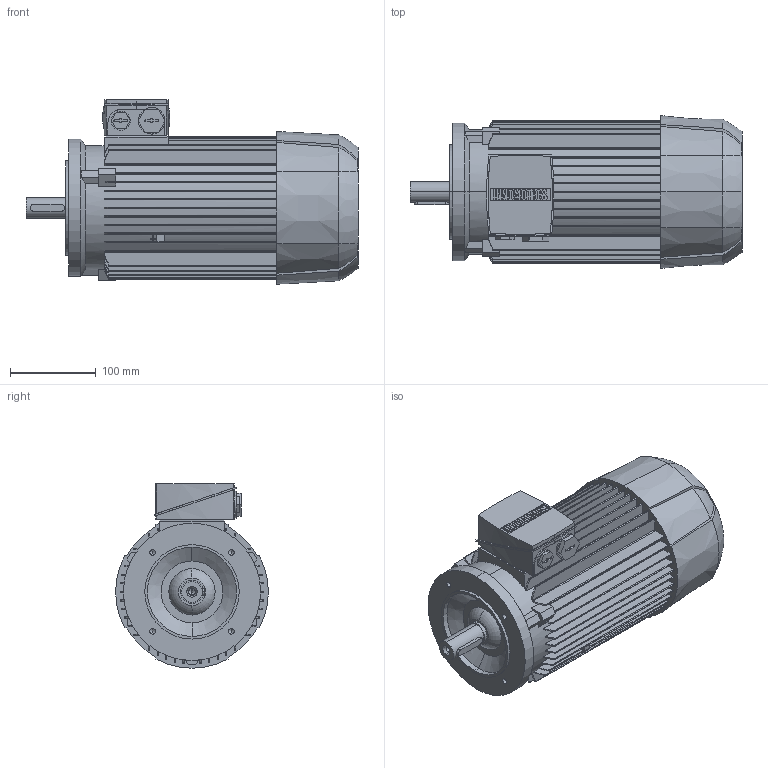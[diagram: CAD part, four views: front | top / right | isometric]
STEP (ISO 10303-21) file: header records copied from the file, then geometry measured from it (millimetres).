
FILE_DESCRIPTION(('STEP AP214'),'1');
FILE_NAME('cctmp_039213D1-B88B-4E0B-A213-E681F688B83F_2026_05_04_09_38_10_0939_2612..stp','2026-05-04T07:38:11',('KiM GmbH'),('CADClick - www.CADClick.com'),'Spatial InterOp 3D',' ','unknown authorization');
FILE_SCHEMA(('AUTOMOTIVE_DESIGN'));
Length unit declared in the file: millimetre
Products named in the file (1): 2026_05_04_09_38_10_0939
Bounding box: 387 x 178 x 215 mm (x, y, z)
Volume: 6671070.2 mm3; surface area: 455396.1 mm2
Topology: 1 solids, 1 shells, 667 faces, 1867 edges, 1230 vertices
Faces by surface type: plane 414, cylinder 171, torus 52, cone 30
Entity records: 27900 total; most frequent: CARTESIAN_POINT 5162, ORIENTED_EDGE 3714, DIRECTION 3611, EDGE_CURVE 1857, VERTEX_POINT 1230, AXIS2_PLACEMENT_3D 1224, LINE 1163, VECTOR 1163
